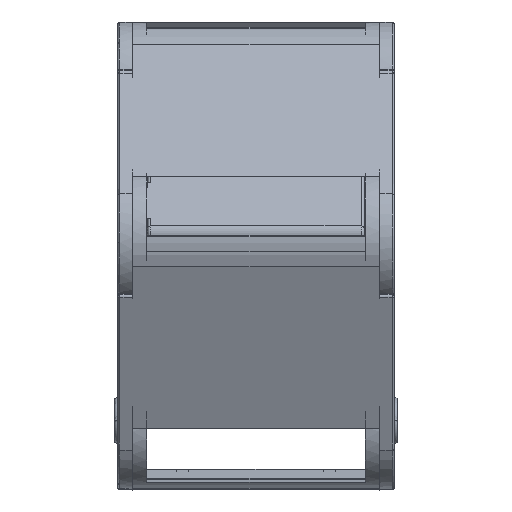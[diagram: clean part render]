
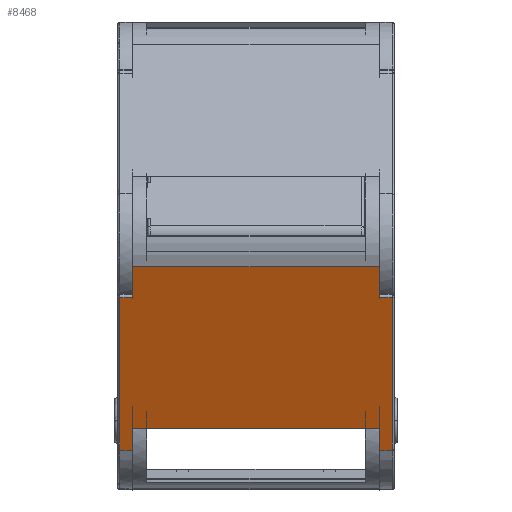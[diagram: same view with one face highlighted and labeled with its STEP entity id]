
A CAD part, top view. The second image highlights one B-rep face of the part: STEP entity #8468.
In plain terms, the highlighted planar face has unit normal (0, -0.407, 0.913) as drawn and (0, -1, 0) by its records, which use the part's own axes.
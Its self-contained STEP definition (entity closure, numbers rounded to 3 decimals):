
#118 = DIRECTION ( 'NONE',  ( 0., 0., -1. ) ) ;
#224 = FACE_OUTER_BOUND ( 'NONE', #2335, .T. ) ;
#236 = CARTESIAN_POINT ( 'NONE',  ( 175.615, -77.815, 6.336 ) ) ;
#394 = CARTESIAN_POINT ( 'NONE',  ( 219.586, -77.815, -17.794 ) ) ;
#428 = VECTOR ( 'NONE', #2224, 1000. ) ;
#754 = EDGE_CURVE ( 'NONE', #14409, #1239, #6411, .T. ) ;
#788 = ORIENTED_EDGE ( 'NONE', *, *, #18865, .T. ) ;
#939 = LINE ( 'NONE', #11770, #428 ) ;
#1023 = LINE ( 'NONE', #20620, #17417 ) ;
#1239 = VERTEX_POINT ( 'NONE', #394 ) ;
#2023 = CARTESIAN_POINT ( 'NONE',  ( 175.312, -77.815, 6.336 ) ) ;
#2082 = ORIENTED_EDGE ( 'NONE', *, *, #17981, .F. ) ;
#2193 = VECTOR ( 'NONE', #6240, 1000. ) ;
#2224 = DIRECTION ( 'NONE',  ( 1., 0., 0. ) ) ;
#2335 = EDGE_LOOP ( 'NONE', ( #15644, #18186, #12246, #19759, #2082, #11204, #7996, #6945, #8259, #6393, #17270, #788 ) ) ;
#2576 = CARTESIAN_POINT ( 'NONE',  ( 219.536, -77.815, 6.336 ) ) ;
#2604 = CARTESIAN_POINT ( 'NONE',  ( 177.787, -77.815, 6.336 ) ) ;
#2662 = CARTESIAN_POINT ( 'NONE',  ( 177.787, -77.815, 12.133 ) ) ;
#3078 = VERTEX_POINT ( 'NONE', #20578 ) ;
#3601 = VERTEX_POINT ( 'NONE', #16589 ) ;
#3632 = DIRECTION ( 'NONE',  ( 0., 1., 0. ) ) ;
#3758 = CARTESIAN_POINT ( 'NONE',  ( 177.787, -77.815, 6.336 ) ) ;
#3847 = LINE ( 'NONE', #17754, #11823 ) ;
#3949 = LINE ( 'NONE', #17952, #4464 ) ;
#4010 = VECTOR ( 'NONE', #118, 1000. ) ;
#4210 = CARTESIAN_POINT ( 'NONE',  ( 219.536, -77.815, 12.133 ) ) ;
#4464 = VECTOR ( 'NONE', #8397, 1000. ) ;
#4503 = LINE ( 'NONE', #3758, #8195 ) ;
#4836 = CARTESIAN_POINT ( 'NONE',  ( 221.708, -77.815, 6.336 ) ) ;
#5120 = CARTESIAN_POINT ( 'NONE',  ( 177.737, -77.815, 6.336 ) ) ;
#5758 = DIRECTION ( 'NONE',  ( 1., 0., 0. ) ) ;
#5901 = DIRECTION ( 'NONE',  ( 1., 0., 0. ) ) ;
#5987 = VERTEX_POINT ( 'NONE', #14150 ) ;
#6240 = DIRECTION ( 'NONE',  ( 0., 0., 1. ) ) ;
#6264 = EDGE_CURVE ( 'NONE', #14171, #7317, #15468, .T. ) ;
#6393 = ORIENTED_EDGE ( 'NONE', *, *, #6264, .F. ) ;
#6411 = LINE ( 'NONE', #10023, #2193 ) ;
#6567 = DIRECTION ( 'NONE',  ( 0., 0., -1. ) ) ;
#6573 = EDGE_CURVE ( 'NONE', #8479, #5987, #8725, .T. ) ;
#6797 = VERTEX_POINT ( 'NONE', #4210 ) ;
#6945 = ORIENTED_EDGE ( 'NONE', *, *, #20576, .F. ) ;
#7317 = VERTEX_POINT ( 'NONE', #2604 ) ;
#7996 = ORIENTED_EDGE ( 'NONE', *, *, #19491, .F. ) ;
#8063 = CARTESIAN_POINT ( 'NONE',  ( 175.615, -77.815, 6.336 ) ) ;
#8168 = CARTESIAN_POINT ( 'NONE',  ( 175.615, -77.815, -21.805 ) ) ;
#8195 = VECTOR ( 'NONE', #8549, 1000. ) ;
#8259 = ORIENTED_EDGE ( 'NONE', *, *, #18555, .F. ) ;
#8397 = DIRECTION ( 'NONE',  ( 1., 0., 0. ) ) ;
#8468 = ADVANCED_FACE ( 'NONE', ( #224 ), #16150, .F. ) ;
#8470 = EDGE_CURVE ( 'NONE', #14409, #3601, #3949, .T. ) ;
#8479 = VERTEX_POINT ( 'NONE', #19584 ) ;
#8549 = DIRECTION ( 'NONE',  ( 0., 0., 1. ) ) ;
#8723 = LINE ( 'NONE', #4836, #4010 ) ;
#8725 = LINE ( 'NONE', #5120, #12502 ) ;
#8829 = VECTOR ( 'NONE', #11310, 1000. ) ;
#9036 = CARTESIAN_POINT ( 'NONE',  ( 175.312, -77.815, 6.336 ) ) ;
#9132 = CARTESIAN_POINT ( 'NONE',  ( 219.586, -77.815, -21.805 ) ) ;
#9643 = LINE ( 'NONE', #9766, #12895 ) ;
#9766 = CARTESIAN_POINT ( 'NONE',  ( 219.536, -77.815, 12.133 ) ) ;
#10023 = CARTESIAN_POINT ( 'NONE',  ( 219.586, -77.815, 6.336 ) ) ;
#10050 = VERTEX_POINT ( 'NONE', #8168 ) ;
#11088 = EDGE_CURVE ( 'NONE', #16465, #3078, #16600, .T. ) ;
#11204 = ORIENTED_EDGE ( 'NONE', *, *, #11088, .F. ) ;
#11247 = VECTOR ( 'NONE', #5901, 1000. ) ;
#11310 = DIRECTION ( 'NONE',  ( 0., 0., 1. ) ) ;
#11423 = DIRECTION ( 'NONE',  ( -1., 0., 0. ) ) ;
#11770 = CARTESIAN_POINT ( 'NONE',  ( 175.312, -77.815, 12.133 ) ) ;
#11823 = VECTOR ( 'NONE', #11423, 1000. ) ;
#11876 = VECTOR ( 'NONE', #5758, 1000. ) ;
#12246 = ORIENTED_EDGE ( 'NONE', *, *, #754, .F. ) ;
#12502 = VECTOR ( 'NONE', #12919, 1000. ) ;
#12588 = EDGE_CURVE ( 'NONE', #10050, #14171, #13068, .T. ) ;
#12748 = DIRECTION ( 'NONE',  ( 1., 0., 0. ) ) ;
#12895 = VECTOR ( 'NONE', #6567, 1000. ) ;
#12898 = EDGE_CURVE ( 'NONE', #1239, #8479, #3847, .T. ) ;
#12919 = DIRECTION ( 'NONE',  ( 0., 0., -1. ) ) ;
#13068 = LINE ( 'NONE', #8063, #8829 ) ;
#14150 = CARTESIAN_POINT ( 'NONE',  ( 177.737, -77.815, -21.805 ) ) ;
#14171 = VERTEX_POINT ( 'NONE', #236 ) ;
#14409 = VERTEX_POINT ( 'NONE', #9132 ) ;
#14755 = DIRECTION ( 'NONE',  ( 0., 0., 1. ) ) ;
#15468 = LINE ( 'NONE', #9036, #11247 ) ;
#15644 = ORIENTED_EDGE ( 'NONE', *, *, #6573, .F. ) ;
#16150 = PLANE ( 'NONE',  #19695 ) ;
#16465 = VERTEX_POINT ( 'NONE', #2576 ) ;
#16589 = CARTESIAN_POINT ( 'NONE',  ( 221.708, -77.815, -21.805 ) ) ;
#16600 = LINE ( 'NONE', #16899, #11876 ) ;
#16899 = CARTESIAN_POINT ( 'NONE',  ( 175.021, -77.815, 6.336 ) ) ;
#17270 = ORIENTED_EDGE ( 'NONE', *, *, #12588, .F. ) ;
#17417 = VECTOR ( 'NONE', #12748, 1000. ) ;
#17754 = CARTESIAN_POINT ( 'NONE',  ( 175.312, -77.815, -17.794 ) ) ;
#17952 = CARTESIAN_POINT ( 'NONE',  ( 175.312, -77.815, -21.805 ) ) ;
#17981 = EDGE_CURVE ( 'NONE', #3078, #3601, #8723, .T. ) ;
#18186 = ORIENTED_EDGE ( 'NONE', *, *, #12898, .F. ) ;
#18555 = EDGE_CURVE ( 'NONE', #7317, #18801, #4503, .T. ) ;
#18801 = VERTEX_POINT ( 'NONE', #2662 ) ;
#18865 = EDGE_CURVE ( 'NONE', #10050, #5987, #1023, .T. ) ;
#19491 = EDGE_CURVE ( 'NONE', #6797, #16465, #9643, .T. ) ;
#19584 = CARTESIAN_POINT ( 'NONE',  ( 177.737, -77.815, -17.794 ) ) ;
#19695 = AXIS2_PLACEMENT_3D ( 'NONE', #2023, #3632, #14755 ) ;
#19759 = ORIENTED_EDGE ( 'NONE', *, *, #8470, .T. ) ;
#20576 = EDGE_CURVE ( 'NONE', #18801, #6797, #939, .T. ) ;
#20578 = CARTESIAN_POINT ( 'NONE',  ( 221.708, -77.815, 6.336 ) ) ;
#20620 = CARTESIAN_POINT ( 'NONE',  ( 175.312, -77.815, -21.805 ) ) ;
